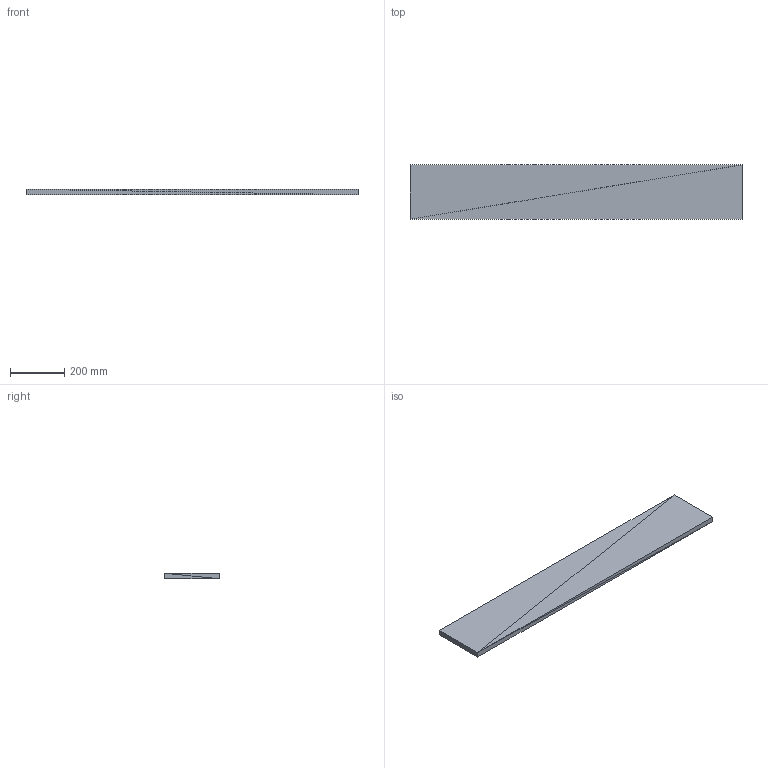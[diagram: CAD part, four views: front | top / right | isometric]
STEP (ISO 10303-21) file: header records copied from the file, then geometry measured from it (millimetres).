
FILE_DESCRIPTION(('ISINAC STEP AP214'),'2;1');
FILE_NAME('ISINAC_R.1220.200_20mm_ADHESIVO','2026-05-03T10:49:19',('ISINAC'),('www.isinac.com'),'ISINAC BIM Generator 1.0','','');
FILE_SCHEMA(('AUTOMOTIVE_DESIGN'));
Length unit declared in the file: millimetre
Products named in the file (1): ISINAC_R.1220.200_20mm_ADHESIVO
Bounding box: 1220 x 200 x 20 mm (x, y, z)
Surface area: 544800 mm2 (no closed solid volume)
Topology: 0 solids, 12 shells, 12 faces, 36 edges, 36 vertices
Faces by surface type: plane 12
Entity records: 145 total; most frequent: CARTESIAN_POINT 48, DIRECTION 24, POLY_LOOP 12, FACE_OUTER_BOUND 12, AXIS2_PLACEMENT_3D 12, PLANE 12, FACE_SURFACE 12, CLOSED_SHELL 1
